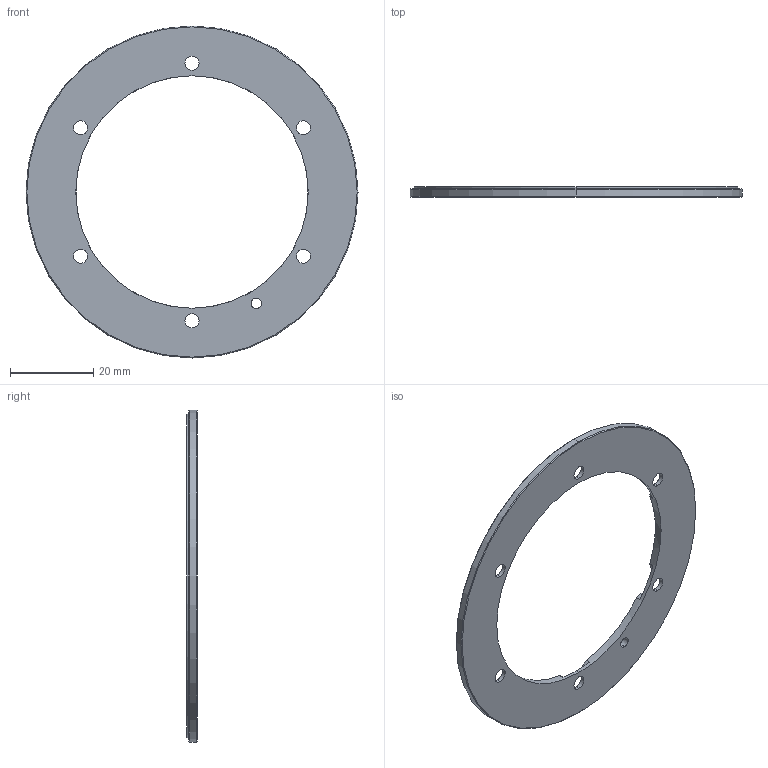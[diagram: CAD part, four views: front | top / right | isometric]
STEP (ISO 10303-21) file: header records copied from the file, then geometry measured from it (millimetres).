
FILE_DESCRIPTION (( 'STEP AP214' ), '1' );
FILE_NAME ('GRR-096-A11-ST.STEP', '2023-03-23T18:15:19', ( '' ), ( '' ), 'SwSTEP 2.0', 'SolidWorks 2021', '' );
FILE_SCHEMA (( 'AUTOMOTIVE_DESIGN' ));
Length unit declared in the file: millimetre
Products named in the file (1): GRR-096-A11-ST
Bounding box: 80 x 2.5 x 80 mm (x, y, z)
Volume: 5296.5 mm3; surface area: 8212.4 mm2
Topology: 2 solids, 2 shells, 77 faces, 209 edges, 138 vertices
Faces by surface type: cylinder 49, plane 24, cone 4
Entity records: 3411 total; most frequent: DIRECTION 479, CARTESIAN_POINT 425, ORIENTED_EDGE 418, EDGE_CURVE 209, AXIS2_PLACEMENT_3D 192, VERTEX_POINT 138, CIRCLE 114, EDGE_LOOP 97
